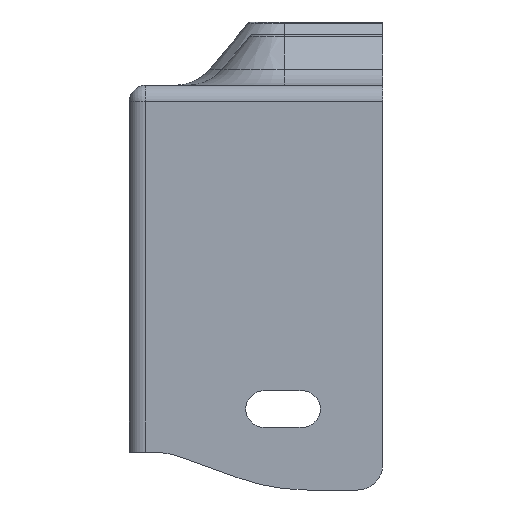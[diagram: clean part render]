
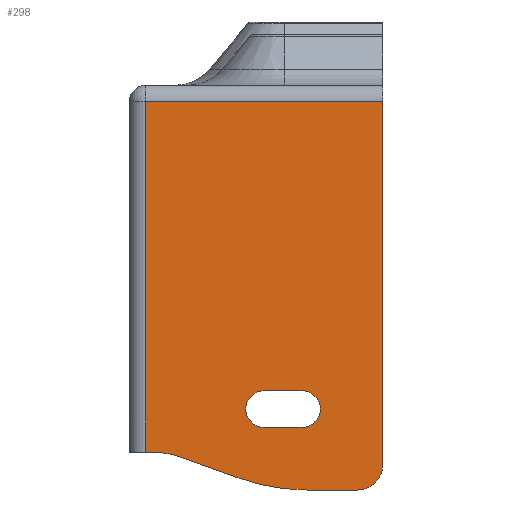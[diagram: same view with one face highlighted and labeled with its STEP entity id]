
A CAD part, left-side view. The second image highlights one B-rep face of the part: STEP entity #298.
In plain terms, the highlighted planar face has unit normal (-1, 0, 0).
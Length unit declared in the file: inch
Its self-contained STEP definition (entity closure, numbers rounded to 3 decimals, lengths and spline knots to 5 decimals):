
#50 = EDGE_CURVE ( 'NONE', #2137, #4958, #96, .T. ) ;
#96 = LINE ( 'NONE', #1819, #3634 ) ;
#151 = LINE ( 'NONE', #1306, #3743 ) ;
#171 = EDGE_CURVE ( 'NONE', #3374, #3687, #3034, .T. ) ;
#179 = EDGE_CURVE ( 'NONE', #398, #2744, #513, .T. ) ;
#290 = EDGE_CURVE ( 'NONE', #3687, #4840, #982, .T. ) ;
#297 = CARTESIAN_POINT ( 'NONE',  ( -2.37362, 0.43848, 0.1875 ) ) ;
#298 = ADVANCED_FACE ( 'NONE', ( #2313, #2610 ), #4697, .F. ) ;
#398 = VERTEX_POINT ( 'NONE', #4749 ) ;
#401 = EDGE_LOOP ( 'NONE', ( #3019, #1780, #2941, #1316 ) ) ;
#480 = CARTESIAN_POINT ( 'NONE',  ( -2.37362, 0.51563, -0.25 ) ) ;
#513 = LINE ( 'NONE', #297, #3510 ) ;
#520 = CARTESIAN_POINT ( 'NONE',  ( -2.37362, -0.04011, 0.30945 ) ) ;
#572 = VERTEX_POINT ( 'NONE', #520 ) ;
#633 = DIRECTION ( 'NONE',  ( 0., 1., 0. ) ) ;
#641 = AXIS2_PLACEMENT_3D ( 'NONE', #480, #1226, #2735 ) ;
#744 = EDGE_CURVE ( 'NONE', #4112, #1623, #2605, .T. ) ;
#752 = ORIENTED_EDGE ( 'NONE', *, *, #3833, .T. ) ;
#774 = DIRECTION ( 'NONE',  ( -1., 0., 0. ) ) ;
#950 = VERTEX_POINT ( 'NONE', #3424 ) ;
#982 = LINE ( 'NONE', #2671, #1354 ) ;
#1021 = DIRECTION ( 'NONE',  ( 0., -1., 0. ) ) ;
#1061 = CARTESIAN_POINT ( 'NONE',  ( -2.37362, 0.62598, 0.1875 ) ) ;
#1092 = EDGE_CURVE ( 'NONE', #4958, #950, #4426, .T. ) ;
#1177 = CIRCLE ( 'NONE', #2578, 0.125 ) ;
#1226 = DIRECTION ( 'NONE',  ( 1., 0., 0. ) ) ;
#1256 = DIRECTION ( 'NONE',  ( 0., 0., -1. ) ) ;
#1306 = CARTESIAN_POINT ( 'NONE',  ( -2.37362, -0.62598, 2. ) ) ;
#1316 = ORIENTED_EDGE ( 'NONE', *, *, #2611, .T. ) ;
#1354 = VECTOR ( 'NONE', #2693, 39.37008 ) ;
#1357 = ORIENTED_EDGE ( 'NONE', *, *, #171, .T. ) ;
#1409 = LINE ( 'NONE', #1061, #3312 ) ;
#1463 = CARTESIAN_POINT ( 'NONE',  ( -2.37362, -0.50098, 0. ) ) ;
#1510 = DIRECTION ( 'NONE',  ( 1., 0., 0. ) ) ;
#1565 = CARTESIAN_POINT ( 'NONE',  ( -2.37362, -0.04011, 0.49055 ) ) ;
#1623 = VERTEX_POINT ( 'NONE', #1463 ) ;
#1701 = CARTESIAN_POINT ( 'NONE',  ( -2.37362, -0.25299, 0. ) ) ;
#1780 = ORIENTED_EDGE ( 'NONE', *, *, #1092, .T. ) ;
#1819 = CARTESIAN_POINT ( 'NONE',  ( -2.37362, -0.22761, 0.49055 ) ) ;
#1898 = ORIENTED_EDGE ( 'NONE', *, *, #179, .T. ) ;
#1935 = DIRECTION ( 'NONE',  ( 0., 0., -1. ) ) ;
#1952 = CARTESIAN_POINT ( 'NONE',  ( -2.37362, -0.25299, 1. ) ) ;
#1964 = ORIENTED_EDGE ( 'NONE', *, *, #3432, .T. ) ;
#2023 = ORIENTED_EDGE ( 'NONE', *, *, #290, .T. ) ;
#2039 = EDGE_CURVE ( 'NONE', #950, #572, #4458, .T. ) ;
#2053 = DIRECTION ( 'NONE',  ( 0., 0., -1. ) ) ;
#2137 = VERTEX_POINT ( 'NONE', #1565 ) ;
#2205 = ORIENTED_EDGE ( 'NONE', *, *, #744, .T. ) ;
#2222 = CARTESIAN_POINT ( 'NONE',  ( -2.37362, -0.62598, 0. ) ) ;
#2228 = CARTESIAN_POINT ( 'NONE',  ( -2.37362, -0.62598, 1.92 ) ) ;
#2309 = CARTESIAN_POINT ( 'NONE',  ( -2.37362, -0.62598, 1.92 ) ) ;
#2313 = FACE_BOUND ( 'NONE', #401, .T. ) ;
#2386 = DIRECTION ( 'NONE',  ( 1., 0., 0. ) ) ;
#2396 = AXIS2_PLACEMENT_3D ( 'NONE', #3977, #2386, #1256 ) ;
#2405 = DIRECTION ( 'NONE',  ( 0., 0., -1. ) ) ;
#2422 = CARTESIAN_POINT ( 'NONE',  ( -2.37362, -0.22761, 0.49055 ) ) ;
#2440 = ORIENTED_EDGE ( 'NONE', *, *, #4951, .T. ) ;
#2574 = DIRECTION ( 'NONE',  ( 0., -1., 0. ) ) ;
#2578 = AXIS2_PLACEMENT_3D ( 'NONE', #3223, #4768, #2405 ) ;
#2590 = CIRCLE ( 'NONE', #641, 0.4375 ) ;
#2605 = LINE ( 'NONE', #2222, #3371 ) ;
#2610 = FACE_OUTER_BOUND ( 'NONE', #3887, .T. ) ;
#2611 = EDGE_CURVE ( 'NONE', #572, #2137, #3135, .T. ) ;
#2655 = DIRECTION ( 'NONE',  ( 0., 0., -1. ) ) ;
#2671 = CARTESIAN_POINT ( 'NONE',  ( -2.37362, 0.54598, 2. ) ) ;
#2682 = VERTEX_POINT ( 'NONE', #4161 ) ;
#2693 = DIRECTION ( 'NONE',  ( 0., 0., -1. ) ) ;
#2735 = DIRECTION ( 'NONE',  ( 0., 0., -1. ) ) ;
#2744 = VERTEX_POINT ( 'NONE', #3808 ) ;
#2750 = CARTESIAN_POINT ( 'NONE',  ( -2.37362, 0.54598, 0.1875 ) ) ;
#2767 = AXIS2_PLACEMENT_3D ( 'NONE', #1952, #774, #1935 ) ;
#2862 = DIRECTION ( 'NONE',  ( 0., 0., -1. ) ) ;
#2875 = EDGE_CURVE ( 'NONE', #2744, #4112, #3723, .T. ) ;
#2941 = ORIENTED_EDGE ( 'NONE', *, *, #2039, .T. ) ;
#3019 = ORIENTED_EDGE ( 'NONE', *, *, #50, .T. ) ;
#3034 = LINE ( 'NONE', #2228, #3944 ) ;
#3121 = CARTESIAN_POINT ( 'NONE',  ( -2.37362, -0.22761, 0.4 ) ) ;
#3135 = CIRCLE ( 'NONE', #4208, 0.09055 ) ;
#3223 = CARTESIAN_POINT ( 'NONE',  ( -2.37362, -0.50098, 0.125 ) ) ;
#3312 = VECTOR ( 'NONE', #3739, 39.37008 ) ;
#3341 = CARTESIAN_POINT ( 'NONE',  ( -2.37362, -0.22761, 0.30945 ) ) ;
#3371 = VECTOR ( 'NONE', #2574, 39.37008 ) ;
#3374 = VERTEX_POINT ( 'NONE', #2309 ) ;
#3424 = CARTESIAN_POINT ( 'NONE',  ( -2.37362, -0.22761, 0.30945 ) ) ;
#3432 = EDGE_CURVE ( 'NONE', #2682, #398, #2590, .T. ) ;
#3510 = VECTOR ( 'NONE', #4569, 39.37008 ) ;
#3550 = VECTOR ( 'NONE', #633, 39.37008 ) ;
#3634 = VECTOR ( 'NONE', #1021, 39.37008 ) ;
#3687 = VERTEX_POINT ( 'NONE', #4976 ) ;
#3723 = CIRCLE ( 'NONE', #2767, 1. ) ;
#3739 = DIRECTION ( 'NONE',  ( 0., -1., 0. ) ) ;
#3743 = VECTOR ( 'NONE', #2862, 39.37008 ) ;
#3808 = CARTESIAN_POINT ( 'NONE',  ( -2.37362, 0.08903, 0.06031 ) ) ;
#3815 = CARTESIAN_POINT ( 'NONE',  ( -2.37362, -0.04011, 0.4 ) ) ;
#3833 = EDGE_CURVE ( 'NONE', #4840, #2682, #1409, .T. ) ;
#3887 = EDGE_LOOP ( 'NONE', ( #752, #1964, #1898, #4052, #2205, #2440, #4174, #1357, #2023 ) ) ;
#3944 = VECTOR ( 'NONE', #4929, 39.37008 ) ;
#3977 = CARTESIAN_POINT ( 'NONE',  ( -2.37362, -0.62598, 2. ) ) ;
#4052 = ORIENTED_EDGE ( 'NONE', *, *, #2875, .T. ) ;
#4112 = VERTEX_POINT ( 'NONE', #1701 ) ;
#4161 = CARTESIAN_POINT ( 'NONE',  ( -2.37362, 0.51563, 0.1875 ) ) ;
#4174 = ORIENTED_EDGE ( 'NONE', *, *, #4954, .F. ) ;
#4208 = AXIS2_PLACEMENT_3D ( 'NONE', #3815, #1510, #2655 ) ;
#4232 = CARTESIAN_POINT ( 'NONE',  ( -2.37362, -0.62598, 0.125 ) ) ;
#4419 = AXIS2_PLACEMENT_3D ( 'NONE', #3121, #4692, #2053 ) ;
#4426 = CIRCLE ( 'NONE', #4419, 0.09055 ) ;
#4458 = LINE ( 'NONE', #3341, #3550 ) ;
#4569 = DIRECTION ( 'NONE',  ( 0., -0.94, -0.342 ) ) ;
#4692 = DIRECTION ( 'NONE',  ( 1., 0., 0. ) ) ;
#4697 = PLANE ( 'NONE',  #2396 ) ;
#4749 = CARTESIAN_POINT ( 'NONE',  ( -2.37362, 0.36599, 0.16112 ) ) ;
#4768 = DIRECTION ( 'NONE',  ( -1., 0., 0. ) ) ;
#4774 = VERTEX_POINT ( 'NONE', #4232 ) ;
#4840 = VERTEX_POINT ( 'NONE', #2750 ) ;
#4929 = DIRECTION ( 'NONE',  ( 0., 1., 0. ) ) ;
#4951 = EDGE_CURVE ( 'NONE', #1623, #4774, #1177, .T. ) ;
#4954 = EDGE_CURVE ( 'NONE', #3374, #4774, #151, .T. ) ;
#4958 = VERTEX_POINT ( 'NONE', #2422 ) ;
#4976 = CARTESIAN_POINT ( 'NONE',  ( -2.37362, 0.54598, 1.92 ) ) ;
